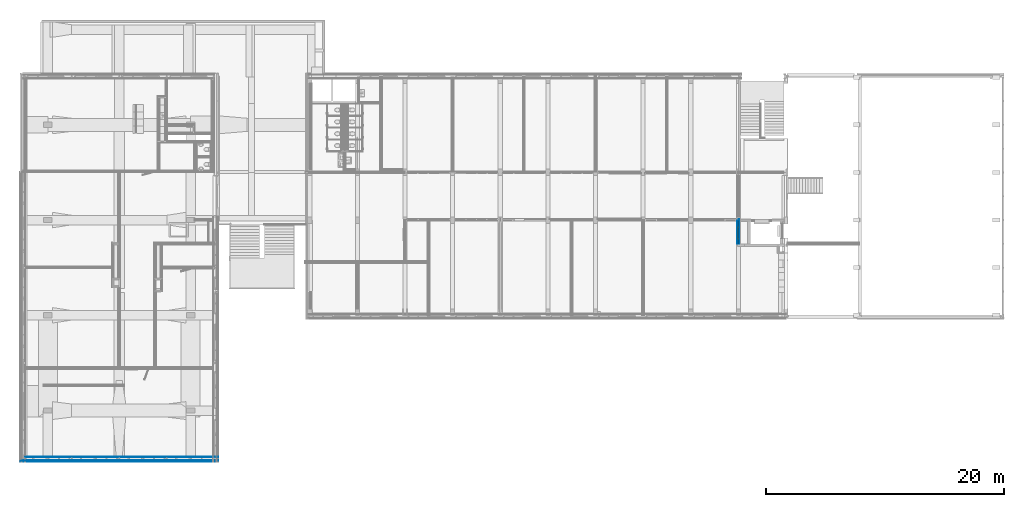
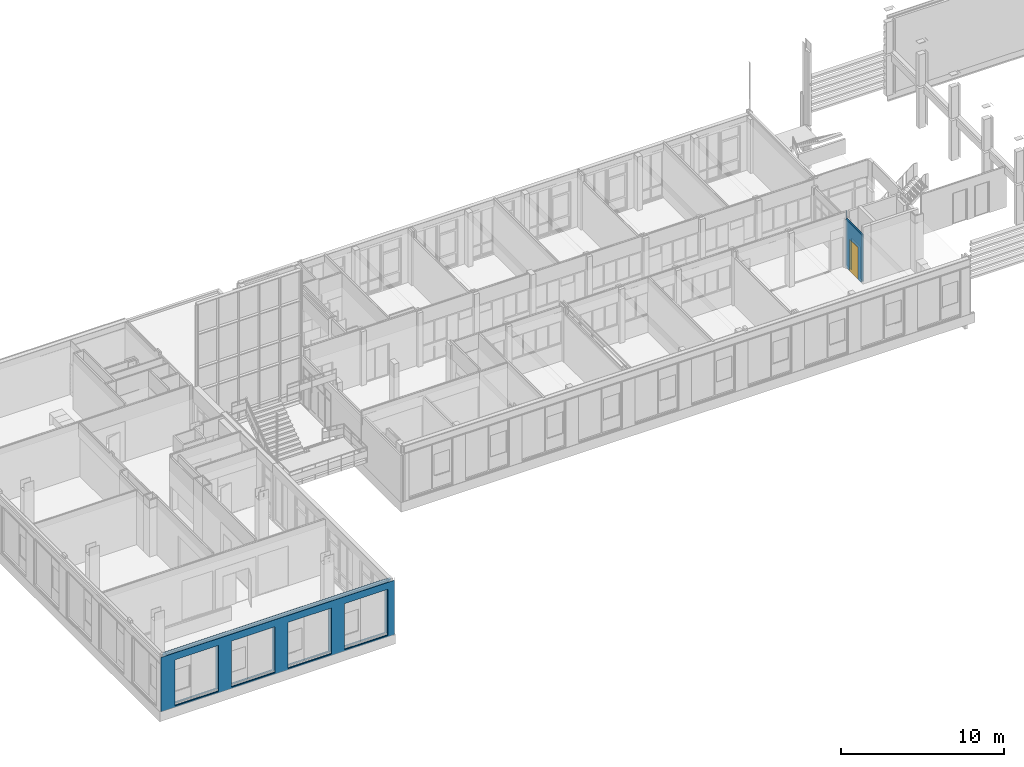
# One storey, part 65 of 94: 11 building element parts, 1 door, 9 openings, 2 elements without a shape of their own.
"""IFC2X3 building model written with IfcOpenShell, lengths in millimetres."""

from ifc_helpers import new_model, entity, si_unit, converted_unit, derived_unit, money_unit, direction, frame, origin_with_axes, place, context, subcontext, project, spatial, faceted_brep, source, transform, mapped, material, type_object, type_shapes, element, fill, aggregate, save


model = new_model("IFC2X3")

# Units and contexts
model_context = context("Model", 3, precision=0.01, world=origin_with_axes(), true_north=direction((0.0, 1.0)))
body_context = subcontext(model_context, "Body", "Model", "MODEL_VIEW")
ifc_project = project(units=[si_unit("LENGTHUNIT", "METRE", prefix="MILLI"), si_unit("AREAUNIT", "SQUARE_METRE"), si_unit("VOLUMEUNIT", "CUBIC_METRE"), converted_unit("PLANEANGLEUNIT", "DEGREE", entity("IfcPlaneAngleMeasure", 0.0174532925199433), si_unit("PLANEANGLEUNIT", "RADIAN"), dimensions=[0, 0, 0, 0, 0, 0, 0]), money_unit("EUR"), converted_unit("TIMEUNIT", "Year", entity("IfcTimeMeasure", 31557600.0), si_unit("TIMEUNIT", "SECOND"), dimensions=[0, 0, 1, 0, 0, 0, 0]), si_unit("MASSUNIT", "GRAM", prefix="KILO"), si_unit("THERMODYNAMICTEMPERATUREUNIT", "DEGREE_CELSIUS"), si_unit("LUMINOUSINTENSITYUNIT", "LUMEN"), si_unit("ENERGYUNIT", "JOULE", prefix="MEGA"), derived_unit("THERMALCONDUCTANCEUNIT", [(si_unit("POWERUNIT", "WATT"), 1), (si_unit("LENGTHUNIT", "METRE"), -1), (si_unit("THERMODYNAMICTEMPERATUREUNIT", "KELVIN"), -1)]), derived_unit("SPECIFICHEATCAPACITYUNIT", [(si_unit("ENERGYUNIT", "JOULE"), 1), (si_unit("MASSUNIT", "GRAM", prefix="KILO"), -1), (si_unit("THERMODYNAMICTEMPERATUREUNIT", "KELVIN"), -1)]), derived_unit("MASSDENSITYUNIT", [(si_unit("MASSUNIT", "GRAM", prefix="KILO"), 1), (si_unit("VOLUMEUNIT", "CUBIC_METRE"), -1)])], contexts=[model_context])

# Site, building, storey
site_placement = place(None, origin_with_axes())
site = spatial("IfcSite", under=ifc_project, at=site_placement, Name="<site naam>", CompositionType="ELEMENT")
building_placement = place(site_placement, origin_with_axes())
building = spatial("IfcBuilding", under=site, at=building_placement, Name="<Naam gebouw>", CompositionType="ELEMENT")
storey_placement = place(building_placement, frame((0.0, 0.0, 4250.0), z_axis=(0.0, 0.0, 1.0), x_axis=(1.0, 0.0, 0.0)))
storey = spatial("IfcBuildingStorey", under=building, at=storey_placement, Name="01 1e verdieping", CompositionType="ELEMENT", Elevation=4250.0)

# Door
door_style = type_object("IfcDoorStyle", Name="D1 27", ConstructionType="NOTDEFINED", OperationType="SINGLE_SWING_RIGHT", ParameterTakesPrecedence=False, Sizeable=False)
shared_shape = source(origin_with_axes(), body_context, "Body", "Brep", [
    faceted_brep([(-449.9999999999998, -40.0, 0.0), (-450.0, -39.99999999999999, 2300.0), (-450.0, -114.0, 2300.0), (-450.0, -114.0, 0.0), (-467.0, -40.0, 2300.0), (-467.0, -40.0, 0.0), (-467.0, 0.0, 2300.0), (-517.0, 0.0, 2300.0), (-517.0, -114.0, 2300.0), (-517.0, -114.0, 0.0), (-517.0, 0.0, 0.0), (-467.0, 0.0, 0.0)], [[[0, 1, 2, 3]], [[4, 1, 0, 5]], [[4, 6, 7, 8, 2, 1]], [[3, 2, 8, 9]], [[5, 0, 3, 9, 10, 11]], [[6, 4, 5, 11]], [[6, 11, 10, 7]], [[10, 9, 8, 7]]]),
    faceted_brep([(467.0, -40.0, 2300.0), (450.0, -39.99999999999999, 2300.0), (450.0, -114.0, 2300.0), (517.0, -114.0, 2300.0), (517.0, 0.0, 2300.0), (467.0, 0.0, 2300.0), (467.0, -40.0, 0.0), (450.0, -40.0, 0.0), (450.0, -114.0, 0.0), (517.0, -114.0, 0.0), (517.0, 0.0, 0.0), (467.0, 0.0, 0.0)], [[[0, 1, 2, 3, 4, 5]], [[1, 0, 6, 7]], [[1, 7, 8, 2]], [[3, 2, 8, 9]], [[4, 3, 9, 10]], [[11, 5, 4, 10]], [[0, 5, 11, 6]], [[6, 11, 10, 9, 8, 7]]]),
    faceted_brep([(-467.0, 0.0, 2317.0), (-467.0, 0.0, 2300.0), (-517.0, 0.0, 2300.0), (-517.0, 0.0, 2367.0), (517.0, 0.0, 2367.0), (517.0, 0.0, 2300.0), (467.0, 0.0, 2300.0), (467.0, 0.0, 2317.0), (-467.0, -40.0, 2317.0), (-467.0, -40.0, 2300.0), (-450.0, -39.99999999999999, 2300.0), (-450.0, -114.0, 2300.0), (-517.0, -114.0, 2300.0), (-517.0, -114.0, 2367.0), (517.0, -114.0, 2367.0), (517.0, -114.0, 2300.0), (467.0, -40.0, 2300.0), (450.0, -114.0, 2300.0), (450.0, -39.99999999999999, 2300.0), (467.0, -40.0, 2317.0)], [[[0, 1, 2, 3, 4, 5, 6, 7]], [[1, 0, 8, 9]], [[9, 10, 11, 12, 2, 1]], [[2, 12, 13, 3]], [[3, 13, 14, 4]], [[4, 14, 15, 5]], [[16, 6, 5, 15, 17, 18]], [[7, 6, 16, 19]], [[0, 7, 19, 8]], [[16, 18, 10, 9, 8, 19]], [[10, 18, 17, 11]], [[17, 15, 14, 13, 12, 11]]]),
    faceted_brep([(467.0000000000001, 0.0, 0.0), (467.0000000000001, -40.0, 0.0), (-467.0, -40.0, 0.0), (-467.0, 0.0, 0.0), (467.0000000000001, 0.0, 2317.0), (467.0000000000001, -40.00000000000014, 2317.0), (-467.0, -40.00000000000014, 2317.0), (-467.0, 0.0, 2317.0)], [[[0, 1, 2, 3]], [[4, 5, 1, 0]], [[1, 5, 6, 2]], [[3, 2, 6, 7]], [[0, 3, 7, 4]], [[7, 6, 5, 4]]]),
])
type_shapes(door_style, [shared_shape])
wall_1_placement = place(storey_placement, frame((48000.00000000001, 8000.000000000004, 0.0), z_axis=(0.0, 0.0, 1.0), x_axis=(0.0, -1.0, 0.0)))
opening_1_placement = place(wall_1_placement, frame((1094.999999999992, 0.0, 0.0), z_axis=(0.0, 0.0, 1.0), x_axis=(1.0, 0.0, 0.0)))
door_placement = place(opening_1_placement, frame((450.0000000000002, 0.0, 0.0), z_axis=(0.0, 0.0, 1.0), x_axis=(-1.0, 0.0, 0.0)))
door = element("IfcDoor", 1, at=door_placement, inside=storey, type_object=door_style, Name="22_BI-A-04 sp_305", ObjectType="DOOR", OverallHeight=2367.0, OverallWidth=1034.0, context=body_context, shape_type="MappedRepresentation", body=[
    mapped(shared_shape, transform((450.0000000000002, 85.00000000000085, 0.0))),
])

# Wall, opening
wall_type_1 = type_object("IfcWallType", Name="MS-01 GF 150 ECO DGS/2.100.2.A 150", PredefinedType="NOTDEFINED")
wall_1 = element("IfcWall", 2, at=wall_1_placement, inside=storey, type_object=wall_type_1, Name="22_Binnenwand_MS-01")
opening_1 = element("IfcOpeningElement", 3, at=opening_1_placement, cuts=wall_1, Name="22_BI-A-04 sp_305", context=body_context, shape_type="Brep", body=[
    faceted_brep([(517.0000000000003, 76.00000000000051, 2367.0), (517.0000000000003, 76.00000000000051, 0.0), (-517.0000000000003, 76.00000000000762, 0.0), (-517.0000000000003, 76.00000000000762, 2367.0), (517.0000000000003, -76.00000000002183, 2367.0), (517.0000000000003, -76.00000000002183, 0.0), (-517.0000000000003, -76.00000000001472, 0.0), (-517.0000000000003, -76.00000000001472, 2367.0)], [[[0, 1, 2, 3]], [[4, 5, 1, 0]], [[5, 6, 2, 1]], [[6, 7, 3, 2]], [[7, 4, 0, 3]], [[6, 5, 4, 7]]]),
])

fill(opening_1, door)

# Building element part
ifc_material_1 = material(Name="gipsplaat")
building_element_part_1_placement = place(wall_1_placement, origin_with_axes())
building_element_part_1 = element("IfcBuildingElementPart", 4, at=building_element_part_1_placement, material=ifc_material_1, Name="gipsplaat", context=body_context, shape_type="Brep", body=[
    faceted_brep([(0.0, 49.99999999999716, 4100.0), (0.0, 62.5, 4100.0), (-50.00000000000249, 62.5, 4100.0), (-50.00000000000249, 49.99999999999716, 4100.0), (0.0, 62.5, 3569.999999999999), (0.0, 49.99999999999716, 3569.999999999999), (1995.000001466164, 62.5, 3569.999999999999), (1995.000001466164, 62.5, 0.0), (-50.00000000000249, 62.5, 0.0), (-50.00000000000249, 49.99999999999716, 0.0), (1995.000001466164, 49.99999999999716, 0.0), (1995.000001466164, 49.99999999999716, 3569.999999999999)], [[[0, 1, 2, 3]], [[4, 1, 0, 5]], [[4, 6, 7, 8, 2, 1]], [[9, 3, 2, 8]], [[5, 0, 3, 9, 10, 11]], [[6, 4, 5, 11]], [[6, 11, 10, 7]], [[10, 9, 8, 7]]]),
])

ifc_material_2 = material(Name="isolatie_steenwol LSW")
building_element_part_2_placement = place(wall_1_placement, origin_with_axes())
building_element_part_2 = element("IfcBuildingElementPart", 5, at=building_element_part_2_placement, material=ifc_material_2, Name="isolatie_steenwol LSW", context=body_context, shape_type="Brep", body=[
    faceted_brep([(49.99999999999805, -49.99999999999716, 3569.999999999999), (49.99999999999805, 49.99999999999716, 3569.999999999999), (49.99999999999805, 49.99999999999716, 0.0), (49.99999999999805, -49.99999999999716, 0.0), (1995.000001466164, 49.99999999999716, 3569.999999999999), (1995.000001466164, -49.99999999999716, 3569.999999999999), (1995.000001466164, 49.99999999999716, 0.0), (1995.000001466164, -49.99999999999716, 0.0)], [[[0, 1, 2, 3]], [[4, 1, 0, 5]], [[1, 4, 6, 2]], [[7, 3, 2, 6]], [[5, 0, 3, 7]], [[4, 5, 7, 6]]]),
])

building_element_part_3_placement = place(wall_1_placement, origin_with_axes())
building_element_part_3 = element("IfcBuildingElementPart", 6, at=building_element_part_3_placement, material=ifc_material_1, Name="gipsplaat", context=body_context, shape_type="Brep", body=[
    faceted_brep([(0.0, 62.5, 4100.0), (0.0, 75.00000000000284, 4100.0), (-62.50000000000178, 75.00000000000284, 4100.0), (-62.50000000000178, 62.5, 4100.0), (0.0, 75.00000000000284, 3569.999999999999), (0.0, 62.5, 3569.999999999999), (1995.000001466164, 75.00000000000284, 3569.999999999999), (1995.000001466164, 75.00000000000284, 0.0), (-62.50000000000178, 75.00000000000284, 0.0), (-62.50000000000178, 62.5, 0.0), (1995.000001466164, 62.5, 0.0), (1995.000001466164, 62.5, 3569.999999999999)], [[[0, 1, 2, 3]], [[4, 1, 0, 5]], [[4, 6, 7, 8, 2, 1]], [[9, 3, 2, 8]], [[5, 0, 3, 9, 10, 11]], [[6, 4, 5, 11]], [[6, 11, 10, 7]], [[10, 9, 8, 7]]]),
])

building_element_part_4_placement = place(wall_1_placement, origin_with_axes())
building_element_part_4 = element("IfcBuildingElementPart", 7, at=building_element_part_4_placement, material=ifc_material_1, Name="gipsplaat", context=body_context, shape_type="Brep", body=[
    faceted_brep([(62.49999999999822, -62.5, 3569.999999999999), (62.49999999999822, -49.99999999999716, 3569.999999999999), (62.49999999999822, -49.99999999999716, 0.0), (62.49999999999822, -62.5, 0.0), (1995.000001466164, -49.99999999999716, 3569.999999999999), (1995.000001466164, -62.5, 3569.999999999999), (1995.000001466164, -49.99999999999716, 0.0), (1995.000001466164, -62.5, 0.0)], [[[0, 1, 2, 3]], [[4, 1, 0, 5]], [[1, 4, 6, 2]], [[7, 3, 2, 6]], [[5, 0, 3, 7]], [[4, 5, 7, 6]]]),
])

building_element_part_5_placement = place(wall_1_placement, origin_with_axes())
building_element_part_5 = element("IfcBuildingElementPart", 8, at=building_element_part_5_placement, material=ifc_material_1, Name="gipsplaat", context=body_context, shape_type="Brep", body=[
    faceted_brep([(74.99999999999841, -75.00000000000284, 3569.999999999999), (74.99999999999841, -62.5, 3569.999999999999), (74.99999999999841, -62.5, 0.0), (74.99999999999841, -75.00000000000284, 0.0), (1995.000001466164, -62.5, 3569.999999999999), (1995.000001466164, -75.00000000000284, 3569.999999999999), (1995.000001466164, -62.5, 0.0), (1995.000001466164, -75.00000000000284, 0.0)], [[[0, 1, 2, 3]], [[4, 1, 0, 5]], [[1, 4, 6, 2]], [[7, 3, 2, 6]], [[5, 0, 3, 7]], [[4, 5, 7, 6]]]),
])

aggregate(wall_1, [building_element_part_1, building_element_part_2, building_element_part_3, building_element_part_4, building_element_part_5])

# Wall, openings, building element parts
wall_type_2 = type_object("IfcWallType", Name="HSB_285 gevelbeplating 420", PredefinedType="NOTDEFINED")
wall_2_placement = place(storey_placement, frame((-12297.99999999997, -12300.03170931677, 0.0), z_axis=(0.0, 0.0, 1.0), x_axis=(1.0, 0.0, 0.0)))
wall_2 = element("IfcWall", 9, at=wall_2_placement, inside=storey, type_object=wall_type_2, Name="21_Binnenwand_HSB_285")
opening_2_placement = place(wall_2_placement, frame((11216.5, 0.0, 99.99999999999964), z_axis=(0.0, 0.0, 1.0), x_axis=(1.0, 0.0, 0.0)))
element("IfcOpeningElement", 10, at=opening_2_placement, cuts=wall_2, Name="21_BU-A-12a sp_305", context=body_context, shape_type="Brep", body=[
    faceted_brep([(918.5, 212.9999999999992, 0.0), (918.5, 213.000000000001, 3450.0), (918.5, -1.000000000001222, 3450.0), (918.5, -1.000000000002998, 0.0), (918.5, 420.9999999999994, 0.0), (918.5, 421.0000000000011, 3450.0), (-918.4999999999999, 213.000000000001, 3450.0), (-918.4999999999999, -1.000000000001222, 3450.0), (-918.4999999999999, -1.000000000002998, 0.0), (-918.4999999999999, 212.9999999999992, 0.0), (-918.4999999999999, 420.9999999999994, 0.0), (-918.4999999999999, 421.0000000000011, 3450.0)], [[[0, 1, 2, 3]], [[1, 0, 4, 5]], [[1, 6, 7, 2]], [[7, 8, 3, 2]], [[9, 0, 3, 8]], [[0, 9, 10, 4]], [[5, 4, 10, 11]], [[6, 1, 5, 11]], [[6, 9, 8, 7]], [[9, 6, 11, 10]]]),
])
opening_3_placement = place(wall_2_placement, frame((13664.50000000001, 0.0, 99.99999999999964), z_axis=(0.0, 0.0, 1.0), x_axis=(1.0, 0.0, 0.0)))
element("IfcOpeningElement", 11, at=opening_3_placement, cuts=wall_2, Name="21_BU-A-12b sp_305", context=body_context, shape_type="Brep", body=[
    faceted_brep([(633.4999999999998, 212.9999999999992, 0.0), (633.4999999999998, 213.000000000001, 3450.0), (633.4999999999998, -1.000000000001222, 3450.0), (633.4999999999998, -1.000000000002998, 0.0), (633.4999999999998, 420.9999999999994, 0.0), (633.4999999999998, 421.0000000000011, 3450.0), (-633.5, 213.000000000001, 3450.0), (-633.5, -1.000000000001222, 3450.0), (-633.5, -1.000000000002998, 0.0), (-633.5, 212.9999999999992, 0.0), (-633.5, 420.9999999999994, 0.0), (-633.5, 421.0000000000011, 3450.0)], [[[0, 1, 2, 3]], [[1, 0, 4, 5]], [[1, 6, 7, 2]], [[7, 8, 3, 2]], [[9, 0, 3, 8]], [[0, 9, 10, 4]], [[5, 4, 10, 11]], [[6, 1, 5, 11]], [[6, 9, 8, 7]], [[9, 6, 11, 10]]]),
])
opening_4_placement = place(wall_2_placement, frame((7216.500000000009, 0.0, 99.99999999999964), z_axis=(0.0, 0.0, 1.0), x_axis=(1.0, 0.0, 0.0)))
element("IfcOpeningElement", 12, at=opening_4_placement, cuts=wall_2, Name="21_BU-A-12a sp_305", context=body_context, shape_type="Brep", body=[
    faceted_brep([(918.4999999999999, 212.9999999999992, 0.0), (918.4999999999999, 213.000000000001, 3450.0), (918.4999999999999, -1.000000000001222, 3450.0), (918.4999999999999, -1.000000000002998, 0.0), (918.4999999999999, 420.9999999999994, 0.0), (918.4999999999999, 421.0000000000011, 3450.0), (-918.4999999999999, 213.000000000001, 3450.0), (-918.4999999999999, -1.000000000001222, 3450.0), (-918.4999999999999, -1.000000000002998, 0.0), (-918.4999999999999, 212.9999999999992, 0.0), (-918.4999999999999, 420.9999999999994, 0.0), (-918.4999999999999, 421.0000000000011, 3450.0)], [[[0, 1, 2, 3]], [[1, 0, 4, 5]], [[1, 6, 7, 2]], [[7, 8, 3, 2]], [[9, 0, 3, 8]], [[0, 9, 10, 4]], [[5, 4, 10, 11]], [[6, 1, 5, 11]], [[6, 9, 8, 7]], [[9, 6, 11, 10]]]),
])
opening_5_placement = place(wall_2_placement, frame((9664.5, 0.0, 99.99999999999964), z_axis=(0.0, 0.0, 1.0), x_axis=(1.0, 0.0, 0.0)))
element("IfcOpeningElement", 13, at=opening_5_placement, cuts=wall_2, Name="21_BU-A-12b sp_305", context=body_context, shape_type="Brep", body=[
    faceted_brep([(633.5, 212.9999999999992, 0.0), (633.5, 213.000000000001, 3450.0), (633.5, -1.000000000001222, 3450.0), (633.5, -1.000000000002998, 0.0), (633.5, 420.9999999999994, 0.0), (633.5, 421.0000000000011, 3450.0), (-633.4999999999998, 213.000000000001, 3450.0), (-633.4999999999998, -1.000000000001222, 3450.0), (-633.4999999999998, -1.000000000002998, 0.0), (-633.4999999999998, 212.9999999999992, 0.0), (-633.4999999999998, 420.9999999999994, 0.0), (-633.4999999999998, 421.0000000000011, 3450.0)], [[[0, 1, 2, 3]], [[1, 0, 4, 5]], [[1, 6, 7, 2]], [[7, 8, 3, 2]], [[9, 0, 3, 8]], [[0, 9, 10, 4]], [[5, 4, 10, 11]], [[6, 1, 5, 11]], [[6, 9, 8, 7]], [[9, 6, 11, 10]]]),
])
opening_6_placement = place(wall_2_placement, frame((5664.500000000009, 0.0, 99.99999999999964), z_axis=(0.0, 0.0, 1.0), x_axis=(1.0, 0.0, 0.0)))
element("IfcOpeningElement", 14, at=opening_6_placement, cuts=wall_2, Name="21_BU-A-12b sp_305", context=body_context, shape_type="Brep", body=[
    faceted_brep([(633.4999999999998, 212.9999999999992, 0.0), (633.4999999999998, 213.000000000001, 3450.0), (633.4999999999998, -0.9999999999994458, 3450.0), (633.4999999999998, -1.000000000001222, 0.0), (633.4999999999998, 420.9999999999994, 0.0), (633.4999999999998, 421.0000000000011, 3450.0), (-633.4999999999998, 213.000000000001, 3450.0), (-633.4999999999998, -0.9999999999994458, 3450.0), (-633.4999999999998, -1.000000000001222, 0.0), (-633.4999999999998, 212.9999999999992, 0.0), (-633.4999999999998, 420.9999999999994, 0.0), (-633.4999999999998, 421.0000000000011, 3450.0)], [[[0, 1, 2, 3]], [[1, 0, 4, 5]], [[1, 6, 7, 2]], [[7, 8, 3, 2]], [[9, 0, 3, 8]], [[0, 9, 10, 4]], [[5, 4, 10, 11]], [[6, 1, 5, 11]], [[6, 9, 8, 7]], [[9, 6, 11, 10]]]),
])
opening_7_placement = place(wall_2_placement, frame((1664.500000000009, 0.0, 99.99999999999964), z_axis=(0.0, 0.0, 1.0), x_axis=(1.0, 0.0, 0.0)))
element("IfcOpeningElement", 15, at=opening_7_placement, cuts=wall_2, Name="21_BU-A-12b sp_305", context=body_context, shape_type="Brep", body=[
    faceted_brep([(633.4999999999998, 212.9999999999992, 0.0), (633.4999999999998, 213.000000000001, 3450.0), (633.4999999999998, -0.9999999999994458, 3450.0), (633.4999999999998, -1.000000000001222, 0.0), (633.4999999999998, 420.9999999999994, 0.0), (633.4999999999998, 421.0000000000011, 3450.0), (-633.4999999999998, 213.000000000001, 3450.0), (-633.4999999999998, -0.9999999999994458, 3450.0), (-633.4999999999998, -1.000000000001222, 0.0), (-633.4999999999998, 212.9999999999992, 0.0), (-633.4999999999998, 420.9999999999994, 0.0), (-633.4999999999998, 421.0000000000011, 3450.0)], [[[0, 1, 2, 3]], [[1, 0, 4, 5]], [[1, 6, 7, 2]], [[7, 8, 3, 2]], [[9, 0, 3, 8]], [[0, 9, 10, 4]], [[5, 4, 10, 11]], [[6, 1, 5, 11]], [[6, 9, 8, 7]], [[9, 6, 11, 10]]]),
])
opening_8_placement = place(wall_2_placement, frame((3216.50000000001, 0.0, 99.99999999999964), z_axis=(0.0, 0.0, 1.0), x_axis=(1.0, 0.0, 0.0)))
element("IfcOpeningElement", 16, at=opening_8_placement, cuts=wall_2, Name="21_BU-A-12a sp_305", context=body_context, shape_type="Brep", body=[
    faceted_brep([(918.4999999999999, 212.9999999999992, 0.0), (918.4999999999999, 213.000000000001, 3450.0), (918.4999999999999, -1.000000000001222, 3450.0), (918.4999999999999, -1.000000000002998, 0.0), (918.4999999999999, 420.9999999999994, 0.0), (918.4999999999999, 421.0000000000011, 3450.0), (-918.4999999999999, 213.000000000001, 3450.0), (-918.4999999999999, -1.000000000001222, 3450.0), (-918.4999999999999, -1.000000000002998, 0.0), (-918.4999999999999, 212.9999999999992, 0.0), (-918.4999999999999, 420.9999999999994, 0.0), (-918.4999999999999, 421.0000000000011, 3450.0)], [[[0, 1, 2, 3]], [[1, 0, 4, 5]], [[1, 6, 7, 2]], [[7, 8, 3, 2]], [[9, 0, 3, 8]], [[0, 9, 10, 4]], [[5, 4, 10, 11]], [[6, 1, 5, 11]], [[6, 9, 8, 7]], [[9, 6, 11, 10]]]),
])
opening_9_placement = place(wall_2_placement, frame((15216.50000000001, 0.0, 99.99999999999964), z_axis=(0.0, 0.0, 1.0), x_axis=(1.0, 0.0, 0.0)))
element("IfcOpeningElement", 17, at=opening_9_placement, cuts=wall_2, Name="21_BU-A-12a sp_305", context=body_context, shape_type="Brep", body=[
    faceted_brep([(918.4999999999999, 212.9999999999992, 0.0), (918.4999999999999, 213.000000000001, 3450.0), (918.4999999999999, -1.000000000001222, 3450.0), (918.4999999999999, -1.000000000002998, 0.0), (918.4999999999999, 420.9999999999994, 0.0), (918.4999999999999, 421.0000000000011, 3450.0), (-918.4999999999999, 213.000000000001, 3450.0), (-918.4999999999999, -1.000000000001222, 3450.0), (-918.4999999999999, -1.000000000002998, 0.0), (-918.4999999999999, 212.9999999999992, 0.0), (-918.4999999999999, 420.9999999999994, 0.0), (-918.4999999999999, 421.0000000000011, 3450.0)], [[[0, 1, 2, 3]], [[1, 0, 4, 5]], [[1, 6, 7, 2]], [[7, 8, 3, 2]], [[9, 0, 3, 8]], [[0, 9, 10, 4]], [[5, 4, 10, 11]], [[6, 1, 5, 11]], [[6, 9, 8, 7]], [[9, 6, 11, 10]]]),
])
building_element_part_6_placement = place(wall_2_placement, origin_with_axes())
building_element_part_6 = element("IfcBuildingElementPart", 18, at=building_element_part_6_placement, material=ifc_material_1, Name="gipsplaat", context=body_context, shape_type="Brep", body=[
    faceted_brep([(419.9999999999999, 419.9999999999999, 4070.000000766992), (16513.04446784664, 420.0000000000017, 4070.000000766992), (16513.04446784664, 419.9999999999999, 3560.000103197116), (16596.04443933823, 420.0000000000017, 3560.000103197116), (16596.04443933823, 420.0000000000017, 0.0), (419.9999999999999, 419.9999999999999, 0.0), (419.9999999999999, 419.9999999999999, 3600.0), (16181.13070763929, 420.0000000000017, 3600.0), (16181.13070763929, 420.0000000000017, 3640.0), (419.9999999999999, 419.9999999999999, 3640.0), (419.9999999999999, 407.5000000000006, 4070.000000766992), (16513.04446784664, 407.5000000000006, 4070.000000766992), (16513.04446784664, 407.5000000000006, 3560.000103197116), (16596.04443933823, 407.5000000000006, 3560.000103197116), (16596.04443933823, 407.5000000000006, 0.0), (419.9999999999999, 407.5000000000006, 0.0), (419.9999999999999, 416.0317093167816, 3640.0), (419.9999999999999, 416.0317093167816, 3600.0), (16181.13070763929, 416.0317093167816, 3600.0), (16181.13070763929, 416.0317093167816, 3640.0)], [[[0, 1, 2, 3, 4, 5, 6, 7, 8, 9]], [[10, 11, 1, 0]], [[12, 2, 1, 11]], [[13, 3, 2, 12]], [[4, 3, 13, 14]], [[4, 14, 15, 5]], [[0, 9, 16, 17, 6, 5, 15, 10]], [[6, 17, 18, 7]], [[7, 18, 19, 8]], [[8, 19, 16, 9]], [[13, 12, 11, 10, 15, 14]], [[16, 19, 18, 17]]]),
])
ifc_material_3 = material(Name="hout_OSB")
building_element_part_7_placement = place(wall_2_placement, origin_with_axes())
building_element_part_7 = element("IfcBuildingElementPart", 19, at=building_element_part_7_placement, material=ifc_material_3, Name="hout_OSB", context=body_context, shape_type="Brep", body=[
    faceted_brep([(407.5000000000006, 407.5000000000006, 4070.000000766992), (16513.04446784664, 407.5000000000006, 4070.000000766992), (16513.04446784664, 407.5000000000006, 3560.000103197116), (16596.04443933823, 407.5000000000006, 3560.000103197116), (16596.04443933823, 407.5000000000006, 0.0), (407.5000000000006, 407.5000000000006, 0.0), (407.5000000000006, 392.5000000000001, 4070.000000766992), (16513.04446784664, 392.5000000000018, 4070.000000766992), (16513.04446784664, 392.5000000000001, 3560.000103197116), (16596.04443933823, 392.5000000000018, 3560.000103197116), (16596.04443933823, 392.5000000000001, 0.0), (407.5000000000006, 392.5000000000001, 0.0)], [[[0, 1, 2, 3, 4, 5]], [[6, 7, 1, 0]], [[8, 2, 1, 7]], [[9, 3, 2, 8]], [[4, 3, 9, 10]], [[10, 11, 5, 4]], [[11, 6, 0, 5]], [[9, 8, 7, 6, 11, 10]]]),
])
ifc_material_4 = material(Name="folie_dampdicht")
building_element_part_8_placement = place(wall_2_placement, origin_with_axes())
building_element_part_8 = element("IfcBuildingElementPart", 20, at=building_element_part_8_placement, material=ifc_material_4, Name="folie_dampdicht", context=body_context, shape_type="Brep", body=[
    faceted_brep([(392.5000000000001, 392.5000000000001, 4070.000000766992), (16513.04446784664, 392.5000000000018, 4070.000000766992), (16513.04446784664, 392.5000000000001, 3560.000103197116), (16596.04443933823, 392.5000000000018, 3560.000103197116), (16596.04443933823, 392.5000000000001, 0.0), (392.5000000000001, 392.5000000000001, 0.0), (392.5000000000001, 391.9999999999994, 4070.000000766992), (16513.04446784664, 392.0000000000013, 4070.000000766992), (16513.04446784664, 391.9999999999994, 3560.000103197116), (16596.04443933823, 392.0000000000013, 3560.000103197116), (16596.04443933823, 392.0000000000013, 0.0), (392.5000000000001, 391.9999999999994, 0.0)], [[[0, 1, 2, 3, 4, 5]], [[6, 7, 1, 0]], [[8, 2, 1, 7]], [[9, 3, 2, 8]], [[4, 3, 9, 10]], [[10, 11, 5, 4]], [[11, 6, 0, 5]], [[9, 8, 7, 6, 11, 10]]]),
])
ifc_material_5 = material(Name="brandwerende_bekleding")
building_element_part_9_placement = place(wall_2_placement, origin_with_axes())
building_element_part_9 = element("IfcBuildingElementPart", 21, at=building_element_part_9_placement, material=ifc_material_5, Name="brandwerende_bekleding", context=body_context, shape_type="Brep", body=[
    faceted_brep([(152.9990296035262, 107.0000000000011, 3949.999659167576), (16443.00008423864, 107.0000000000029, 3949.999659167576), (16443.00008423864, 107.0000000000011, 4070.000000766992), (16513.04446784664, 107.0000000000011, 4070.000000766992), (16513.04446784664, 107.0000000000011, 3560.000103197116), (16596.04443933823, 107.0000000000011, 3560.000103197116), (16596.04443933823, 107.0000000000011, 0.0), (106.9999999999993, 106.9999999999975, 0.0), (106.9999999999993, 107.0000000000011, 4070.000000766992), (152.999029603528, 107.0000000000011, 4070.000000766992), (152.9990296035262, 102.4999999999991, 3949.999659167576), (16443.00008423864, 102.5000000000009, 3949.999659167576), (16443.00008423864, 102.5000000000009, 4070.000000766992), (16513.04446784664, 102.5000000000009, 4070.000000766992), (16513.04446784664, 102.5000000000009, 3560.000103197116), (16596.04443933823, 102.5000000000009, 3560.000103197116), (16596.04443933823, 102.5000000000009, 0.0), (106.9999999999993, 102.4999999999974, 0.0), (106.9999999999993, 102.5000000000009, 4070.000000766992), (152.999029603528, 102.5000000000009, 4070.000000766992)], [[[0, 1, 2, 3, 4, 5, 6, 7, 8, 9]], [[1, 0, 10, 11]], [[12, 2, 1, 11]], [[2, 12, 13, 3]], [[13, 14, 4, 3]], [[14, 15, 5, 4]], [[16, 6, 5, 15]], [[16, 17, 7, 6]], [[17, 18, 8, 7]], [[19, 9, 8, 18]], [[0, 9, 19, 10]], [[10, 19, 18, 17, 16, 15, 14, 13, 12, 11]]]),
])
ifc_material_6 = material(Name="folie_dampopen")
building_element_part_10_placement = place(wall_2_placement, origin_with_axes())
building_element_part_10 = element("IfcBuildingElementPart", 22, at=building_element_part_10_placement, material=ifc_material_6, Name="folie_dampopen", context=body_context, shape_type="Brep", body=[
    faceted_brep([(152.9990296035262, 102.5000000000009, 3949.999659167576), (16443.00008423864, 102.5000000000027, 3949.999659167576), (16443.00008423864, 102.5000000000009, 4070.000000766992), (16513.04446784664, 102.5000000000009, 4070.000000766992), (16513.04446784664, 102.5000000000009, 3560.000103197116), (16596.04443933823, 102.5000000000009, 3560.000103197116), (16596.04443933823, 102.5000000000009, 0.0), (102.4999999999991, 102.4999999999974, 0.0), (102.4999999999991, 102.5000000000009, 4070.000000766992), (152.999029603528, 102.5000000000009, 4070.000000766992), (152.9990296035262, 102.0000000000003, 3949.999659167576), (16443.00008423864, 102.0000000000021, 3949.999659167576), (16443.00008423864, 102.0000000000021, 4070.000000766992), (16513.04446784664, 102.0000000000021, 4070.000000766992), (16513.04446784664, 102.0000000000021, 3560.000103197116), (16596.04443933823, 102.0000000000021, 3560.000103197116), (16596.04443933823, 102.0000000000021, 0.0), (102.4999999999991, 102.0000000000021, 0.0), (102.4999999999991, 102.0000000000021, 4070.000000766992), (152.999029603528, 102.0000000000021, 4070.000000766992)], [[[0, 1, 2, 3, 4, 5, 6, 7, 8, 9]], [[1, 0, 10, 11]], [[12, 2, 1, 11]], [[2, 12, 13, 3]], [[13, 14, 4, 3]], [[14, 15, 5, 4]], [[16, 6, 5, 15]], [[16, 17, 7, 6]], [[17, 18, 8, 7]], [[19, 9, 8, 18]], [[0, 9, 19, 10]], [[10, 19, 18, 17, 16, 15, 14, 13, 12, 11]]]),
])
ifc_material_7 = material(Name="metaal - Aluminium gevelplaat")
building_element_part_11_placement = place(wall_2_placement, origin_with_axes())
building_element_part_11 = element("IfcBuildingElementPart", 23, at=building_element_part_11_placement, material=ifc_material_7, Name="metaal - Aluminium gevelplaat", context=body_context, shape_type="Brep", body=[
    faceted_brep([(39.99999999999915, 40.00000000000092, 3560.000103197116), (93.00000030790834, 39.99999999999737, 3560.000103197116), (93.00000030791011, 40.00000000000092, 4070.000000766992), (16513.04446784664, 40.00000000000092, 4070.000000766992), (16513.04446784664, 40.00000000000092, 3560.000103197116), (16596.04443933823, 40.00000000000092, 3560.000103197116), (16596.04443933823, 40.00000000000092, 0.0), (39.99999999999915, 39.99999999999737, 0.0), (39.99999999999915, 25.04162121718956, 3560.000103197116), (93.00000030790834, 25.04162121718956, 3560.000103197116), (93.00000030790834, 25.04162121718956, 4070.000000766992), (39.99999999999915, 25.04162121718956, 4070.000000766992), (39.99999999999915, 0.0, 4070.000000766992), (16596.04443933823, 0.0, 4070.000000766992), (16596.04443933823, 25.04162121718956, 4070.000000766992), (16513.04446784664, 25.04162121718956, 4070.000000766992), (16513.04446784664, 25.04162121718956, 3560.000103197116), (16596.04443933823, 25.04162121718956, 3560.000103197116), (16596.04443933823, 0.0, 0.0), (39.99999999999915, 0.0, 0.0)], [[[0, 1, 2, 3, 4, 5, 6, 7]], [[1, 0, 8, 9]], [[10, 2, 1, 9]], [[10, 11, 12, 13, 14, 15, 3, 2]], [[16, 4, 3, 15]], [[17, 5, 4, 16]], [[5, 17, 14, 13, 18, 6]], [[19, 7, 6, 18]], [[8, 0, 7, 19, 12, 11]], [[11, 10, 9, 8]], [[12, 19, 18, 13]], [[15, 14, 17, 16]]]),
])
aggregate(wall_2, [building_element_part_6, building_element_part_7, building_element_part_8, building_element_part_9, building_element_part_10, building_element_part_11])

save(model, "model.ifc")
